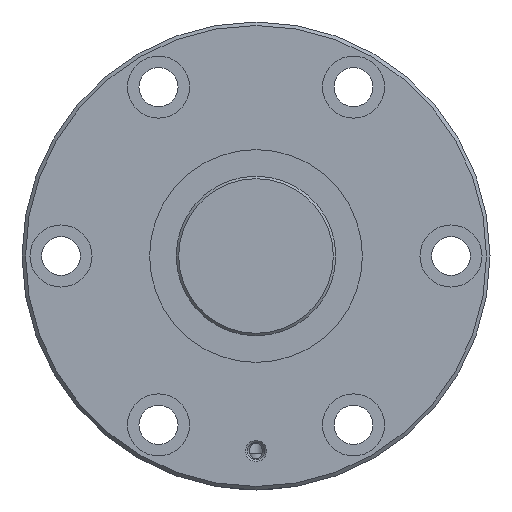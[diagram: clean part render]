
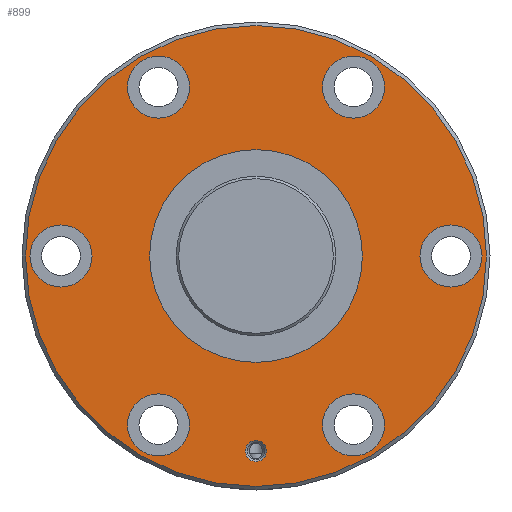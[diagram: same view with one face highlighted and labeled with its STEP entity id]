
A CAD part, left-side view. The second image highlights one B-rep face of the part: STEP entity #899.
In plain terms, the highlighted planar face has unit normal (-1, 0, 0).
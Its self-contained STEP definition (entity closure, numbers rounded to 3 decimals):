
#147=ORIENTED_EDGE('',*,*,#340,.T.);
#148=ORIENTED_EDGE('',*,*,#341,.T.);
#149=ORIENTED_EDGE('',*,*,#342,.T.);
#150=ORIENTED_EDGE('',*,*,#343,.T.);
#151=ORIENTED_EDGE('',*,*,#344,.T.);
#152=ORIENTED_EDGE('',*,*,#345,.T.);
#153=ORIENTED_EDGE('',*,*,#346,.T.);
#154=ORIENTED_EDGE('',*,*,#347,.T.);
#155=ORIENTED_EDGE('',*,*,#339,.F.);
#339=EDGE_CURVE('',#439,#439,#522,.T.);
#340=EDGE_CURVE('',#440,#440,#523,.T.);
#341=EDGE_CURVE('',#441,#441,#524,.F.);
#342=EDGE_CURVE('',#442,#442,#525,.T.);
#343=EDGE_CURVE('',#443,#443,#526,.T.);
#344=EDGE_CURVE('',#444,#444,#527,.T.);
#345=EDGE_CURVE('',#445,#445,#528,.T.);
#346=EDGE_CURVE('',#446,#446,#529,.T.);
#347=EDGE_CURVE('',#447,#447,#530,.T.);
#439=VERTEX_POINT('',#1508);
#440=VERTEX_POINT('',#1511);
#441=VERTEX_POINT('',#1513);
#442=VERTEX_POINT('',#1515);
#443=VERTEX_POINT('',#1517);
#444=VERTEX_POINT('',#1519);
#445=VERTEX_POINT('',#1521);
#446=VERTEX_POINT('',#1523);
#447=VERTEX_POINT('',#1525);
#522=CIRCLE('',#1005,65.);
#523=CIRCLE('',#1007,30.);
#524=CIRCLE('',#1008,8.75);
#525=CIRCLE('',#1009,3.);
#526=CIRCLE('',#1010,8.75);
#527=CIRCLE('',#1011,8.75);
#528=CIRCLE('',#1012,8.75);
#529=CIRCLE('',#1013,8.75);
#530=CIRCLE('',#1014,8.75);
#602=EDGE_LOOP('',(#147));
#603=EDGE_LOOP('',(#148));
#604=EDGE_LOOP('',(#149));
#605=EDGE_LOOP('',(#150));
#606=EDGE_LOOP('',(#151));
#607=EDGE_LOOP('',(#152));
#608=EDGE_LOOP('',(#153));
#609=EDGE_LOOP('',(#154));
#610=EDGE_LOOP('',(#155));
#742=FACE_BOUND('',#602,.T.);
#743=FACE_BOUND('',#603,.T.);
#744=FACE_BOUND('',#604,.T.);
#745=FACE_BOUND('',#605,.T.);
#746=FACE_BOUND('',#606,.T.);
#747=FACE_BOUND('',#607,.T.);
#748=FACE_BOUND('',#608,.T.);
#749=FACE_BOUND('',#609,.T.);
#750=FACE_BOUND('',#610,.T.);
#864=PLANE('',#1006);
#899=ADVANCED_FACE('',(#742,#743,#744,#745,#746,#747,#748,#749,#750),#864,
 .T.);
#1005=AXIS2_PLACEMENT_3D('',#1507,#1171,#1172);
#1006=AXIS2_PLACEMENT_3D('',#1509,#1173,#1174);
#1007=AXIS2_PLACEMENT_3D('',#1510,#1175,#1176);
#1008=AXIS2_PLACEMENT_3D('',#1512,#1177,#1178);
#1009=AXIS2_PLACEMENT_3D('',#1514,#1179,#1180);
#1010=AXIS2_PLACEMENT_3D('',#1516,#1181,#1182);
#1011=AXIS2_PLACEMENT_3D('',#1518,#1183,#1184);
#1012=AXIS2_PLACEMENT_3D('',#1520,#1185,#1186);
#1013=AXIS2_PLACEMENT_3D('',#1522,#1187,#1188);
#1014=AXIS2_PLACEMENT_3D('',#1524,#1189,#1190);
#1171=DIRECTION('',(1.,0.,0.));
#1172=DIRECTION('',(0.,0.,-1.));
#1173=DIRECTION('',(-1.,0.,0.));
#1174=DIRECTION('',(0.,0.,1.));
#1175=DIRECTION('',(1.,0.,0.));
#1176=DIRECTION('',(0.,0.,-1.));
#1177=DIRECTION('',(-1.,0.,0.));
#1178=DIRECTION('',(0.,0.,1.));
#1179=DIRECTION('',(1.,0.,0.));
#1180=DIRECTION('',(0.,0.,-1.));
#1181=DIRECTION('',(1.,0.,0.));
#1182=DIRECTION('',(0.,0.,-1.));
#1183=DIRECTION('',(1.,0.,0.));
#1184=DIRECTION('',(0.,0.,-1.));
#1185=DIRECTION('',(1.,0.,0.));
#1186=DIRECTION('',(0.,0.,-1.));
#1187=DIRECTION('',(1.,0.,0.));
#1188=DIRECTION('',(0.,0.,-1.));
#1189=DIRECTION('',(1.,0.,0.));
#1190=DIRECTION('',(0.,0.,-1.));
#1507=CARTESIAN_POINT('',(0.,0.,0.));
#1508=CARTESIAN_POINT('',(0.,0.,-65.));
#1509=CARTESIAN_POINT('',(0.,65.,0.));
#1510=CARTESIAN_POINT('',(0.,0.,0.));
#1511=CARTESIAN_POINT('',(0.,0.,-30.));
#1512=CARTESIAN_POINT('',(0.,55.,0.));
#1513=CARTESIAN_POINT('',(0.,55.,8.75));
#1514=CARTESIAN_POINT('',(0.,0.,-55.));
#1515=CARTESIAN_POINT('',(0.,0.,-58.));
#1516=CARTESIAN_POINT('',(0.,-55.,0.));
#1517=CARTESIAN_POINT('',(0.,-55.,-8.75));
#1518=CARTESIAN_POINT('',(0.,27.5,47.631));
#1519=CARTESIAN_POINT('',(0.,27.5,38.881));
#1520=CARTESIAN_POINT('',(0.,-27.5,-47.631));
#1521=CARTESIAN_POINT('',(0.,-27.5,-56.381));
#1522=CARTESIAN_POINT('',(0.,-27.5,47.631));
#1523=CARTESIAN_POINT('',(0.,-27.5,38.881));
#1524=CARTESIAN_POINT('',(0.,27.5,-47.631));
#1525=CARTESIAN_POINT('',(0.,27.5,-56.381));
